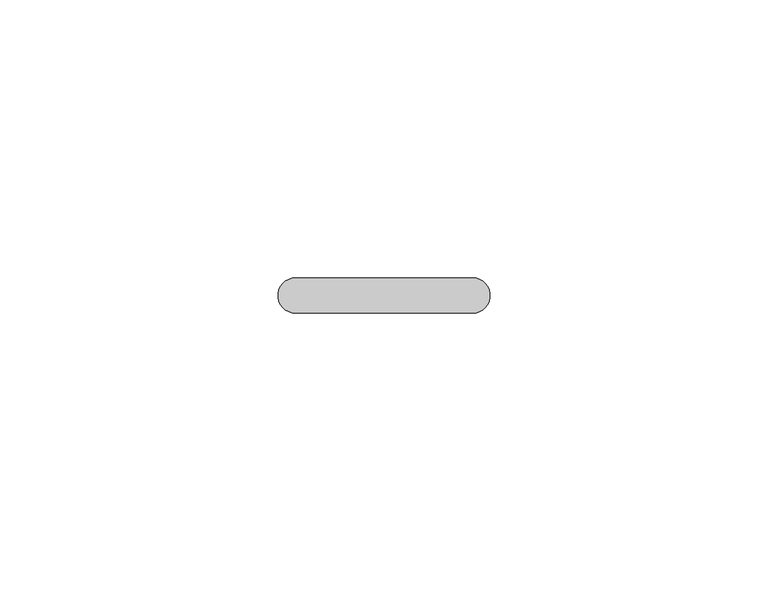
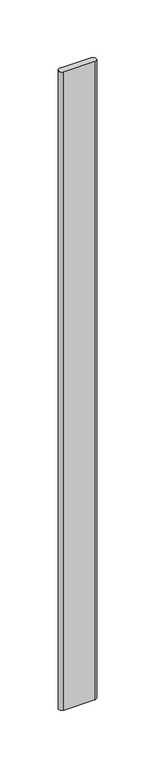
"""IFC4 building model written with IfcOpenShell, lengths in millimetres: proxy geometry, Durabond Generic Model Insulation Adhesive Flat : Durabond Generic Model Insulation Adhesive Flat."""

from ifc_helpers import new_model, si_unit, point, frame_2d, origin, origin_with_axes, place, context, project, spatial, polyline, circle_curve, trimmed, segment, composite_curve, outline, extrude, source, transform, mapped, element, save


def generic_models_aac0d774(model_context):
    return source(origin(), model_context, "Body", "SweptSolid", [
        extrude(outline(composite_curve([segment(polyline([(15.875, -3.175), (-15.875, -3.175)]), True, "CONTINUOUS"), segment(trimmed(circle_curve(frame_2d((-15.875, 0.0)), 3.175), [point((-15.875, -3.175))], [point((-15.875, 3.175))], False, "CARTESIAN"), True, "CONTINUOUS"), segment(polyline([(-15.875, 3.175), (15.875, 3.175)]), True, "CONTINUOUS"), segment(trimmed(circle_curve(frame_2d((15.875, 0.0)), 3.175), [point((15.875, 3.175))], [point((15.875, -3.175))], False, "CARTESIAN"), True, "CONTINUOUS")], self_intersect=False)), origin_with_axes(), (0.0, 0.0, 1.0), 685.8),
    ])


if __name__ == "__main__":
    model = new_model("IFC4")
    model_context = context("Model", 3, world=origin())
    ifc_project = project(units=[si_unit("LENGTHUNIT", "METRE", prefix="MILLI")], contexts=[model_context])
    site = spatial("IfcSite", under=ifc_project)
    building = spatial("IfcBuilding", under=site)
    placement = place(None, origin())
    generic_models_shape = generic_models_aac0d774(model_context)
    element("IfcBuildingElementProxy", 1, Name="Durabond Generic Model Insulation Adhesive Flat : Durabond Generic Model Insulation Adhesive Flat", ObjectType="Durabond Generic Model Insulation Adhesive Flat : Durabond Generic Model Insulation Adhesive Flat", at=placement, inside=building, context=model_context, shape_type="MappedRepresentation", body=[
        mapped(generic_models_shape, transform((0.0, 0.0, 0.0), x_axis=(1.0, 0.0, 0.0), y_axis=(0.0, 1.0, 0.0), z_axis=(0.0, 0.0, 1.0))),
    ])
    save(model, "model.ifc")
